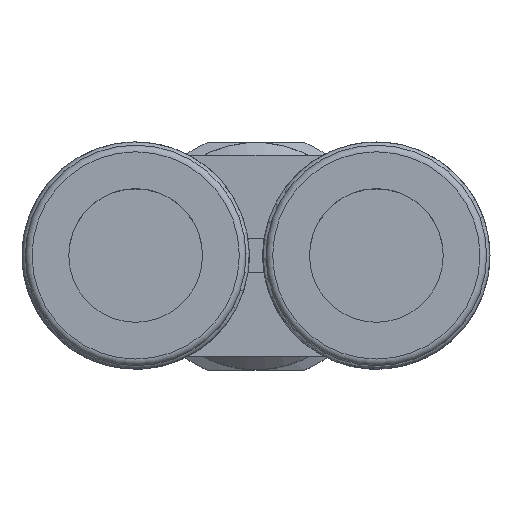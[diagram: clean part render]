
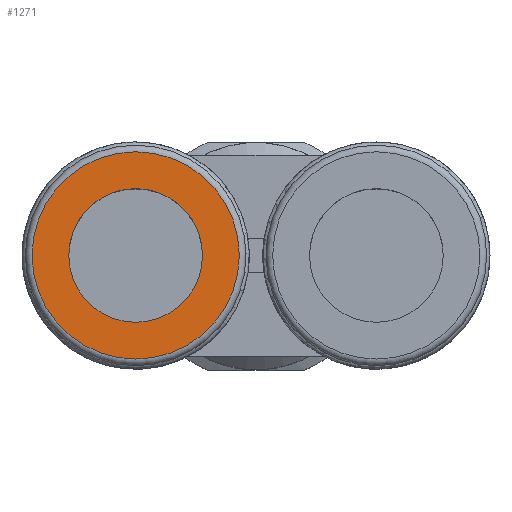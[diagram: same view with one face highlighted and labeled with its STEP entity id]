
A CAD part, top view. The second image highlights one B-rep face of the part: STEP entity #1271.
In plain terms, the highlighted planar face has unit normal (0, 0, 1).
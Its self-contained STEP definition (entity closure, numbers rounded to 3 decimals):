
#213=PLANE($,#1399);
#243=FACE_BOUND($,#397,.T.);
#244=FACE_BOUND($,#398,.T.);
#397=EDGE_LOOP($,(#994));
#398=EDGE_LOOP($,(#995));
#507=CIRCLE($,#1391,5.);
#509=CIRCLE($,#1395,7.75);
#602=VERTEX_POINT($,#2109);
#604=VERTEX_POINT($,#2115);
#745=EDGE_CURVE($,#602,#602,#507,.T.);
#747=EDGE_CURVE($,#604,#604,#509,.T.);
#994=ORIENTED_EDGE($,*,*,#745,.F.);
#995=ORIENTED_EDGE($,*,*,#747,.T.);
#1271=ADVANCED_FACE($,(#243,#244),#213,.T.);
#1391=AXIS2_PLACEMENT_3D($,#2110,#1642,#1643);
#1395=AXIS2_PLACEMENT_3D($,#2116,#1650,#1651);
#1399=AXIS2_PLACEMENT_3D($,#2122,#1658,#1659);
#1642=DIRECTION('center_axis',(0.,0.,1.));
#1643=DIRECTION('ref_axis',(-1.,0.,0.));
#1650=DIRECTION('center_axis',(0.,0.,1.));
#1651=DIRECTION('ref_axis',(1.,0.,0.));
#1658=DIRECTION('center_axis',(0.,0.,1.));
#1659=DIRECTION('ref_axis',(1.,0.,0.));
#2109=CARTESIAN_POINT('',(-14.,0.,39.7));
#2110=CARTESIAN_POINT('Origin',(-9.,0.,39.7));
#2115=CARTESIAN_POINT('',(-16.75,0.,39.7));
#2116=CARTESIAN_POINT('Origin',(-9.,0.,39.7));
#2122=CARTESIAN_POINT('Origin',(-9.,0.,39.7));
